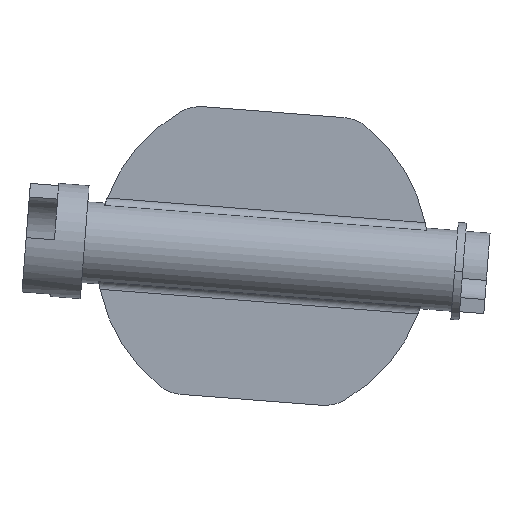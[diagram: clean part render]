
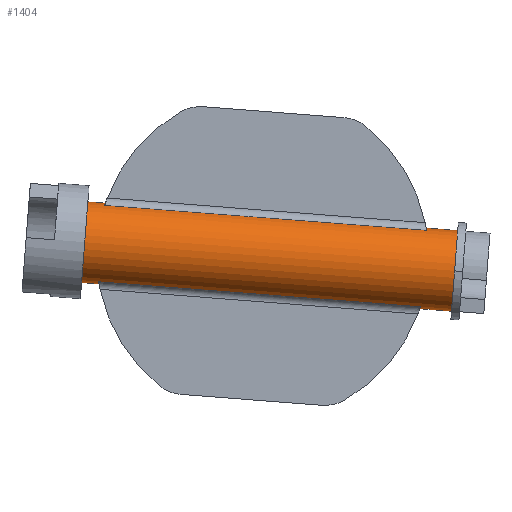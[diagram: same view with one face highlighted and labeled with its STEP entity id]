
A CAD part, front view. The second image highlights one B-rep face of the part: STEP entity #1404.
In plain terms, the highlighted cylindrical face has radius 5 mm (diameter 10 mm), a partial arc.
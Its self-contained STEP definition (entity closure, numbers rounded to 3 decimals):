
#61=CARTESIAN_POINT('',(639.067,0.,133.147));
#62=CARTESIAN_POINT('',(639.067,-0.189,133.147));
#63=CARTESIAN_POINT('',(639.063,-0.564,133.169));
#64=CARTESIAN_POINT('',(639.047,-1.123,133.266));
#65=CARTESIAN_POINT('',(639.03,-1.487,133.373));
#66=CARTESIAN_POINT('',(639.02,-1.667,133.438));
#87=CARTESIAN_POINT('',(639.067,0.,133.147));
#110=CARTESIAN_POINT('',(639.749,-1.667,142.838));
#111=CARTESIAN_POINT('',(639.768,-1.487,142.9));
#112=CARTESIAN_POINT('',(639.802,-1.123,143.003));
#113=CARTESIAN_POINT('',(639.833,-0.564,143.097));
#114=CARTESIAN_POINT('',(639.84,-0.189,143.117));
#115=CARTESIAN_POINT('',(639.84,0.,143.117));
#135=CARTESIAN_POINT('',(683.012,0.,134.755));
#136=DIRECTION('',(0.997,0.,-0.077));
#137=DIRECTION('',(0.077,0.,0.997));
#138=AXIS2_PLACEMENT_3D('',#135,#136,#137);
#140=DIRECTION('',(0.997,0.,-0.077));
#141=VECTOR('',#140,39.901);
#142=CARTESIAN_POINT('',(639.02,-1.667,133.438));
#143=LINE('',#142,#141);
#144=CARTESIAN_POINT('',(637.283,0.,138.301));
#145=DIRECTION('',(0.997,0.,-0.077));
#146=DIRECTION('',(0.077,0.,0.997));
#147=AXIS2_PLACEMENT_3D('',#144,#145,#146);
#149=DIRECTION('',(0.997,0.,-0.077));
#150=VECTOR('',#149,2.177);
#151=CARTESIAN_POINT('',(637.669,0.,143.286));
#152=LINE('',#151,#150);
#153=DIRECTION('',(-0.997,0.,0.077));
#154=VECTOR('',#153,39.901);
#155=CARTESIAN_POINT('',(679.53,-1.667,139.753));
#156=LINE('',#155,#154);
#157=DIRECTION('',(0.997,0.,-0.077));
#158=VECTOR('',#157,3.927);
#159=CARTESIAN_POINT('',(679.483,0.,140.043));
#160=LINE('',#159,#158);
#239=DIRECTION('',(0.997,0.,-0.077));
#240=VECTOR('',#239,2.177);
#241=CARTESIAN_POINT('',(636.896,0.,133.316));
#242=LINE('',#241,#240);
#247=DIRECTION('',(0.997,0.,-0.077));
#248=VECTOR('',#247,3.927);
#249=CARTESIAN_POINT('',(678.71,0.,130.073));
#250=LINE('',#249,#248);
#256=CARTESIAN_POINT('',(678.801,-1.667,130.353));
#257=CARTESIAN_POINT('',(678.782,-1.487,130.291));
#258=CARTESIAN_POINT('',(678.748,-1.123,130.187));
#259=CARTESIAN_POINT('',(678.717,-0.564,130.094));
#260=CARTESIAN_POINT('',(678.71,-0.189,130.073));
#261=CARTESIAN_POINT('',(678.71,0.,130.073));
#291=CARTESIAN_POINT('',(679.483,0.,140.043));
#292=CARTESIAN_POINT('',(679.483,-0.189,140.043));
#293=CARTESIAN_POINT('',(679.487,-0.564,140.022));
#294=CARTESIAN_POINT('',(679.503,-1.123,139.925));
#295=CARTESIAN_POINT('',(679.52,-1.487,139.817));
#296=CARTESIAN_POINT('',(679.53,-1.667,139.753));
#993=CARTESIAN_POINT('',(639.02,-1.667,133.438));
#994=CARTESIAN_POINT('',(678.801,-1.667,130.353));
#995=VERTEX_POINT('',#993);
#996=VERTEX_POINT('',#994);
#1009=CARTESIAN_POINT('',(679.53,-1.667,139.753));
#1010=CARTESIAN_POINT('',(639.749,-1.667,142.838));
#1011=VERTEX_POINT('',#1009);
#1012=VERTEX_POINT('',#1010);
#1029=CARTESIAN_POINT('',(636.896,0.,133.316));
#1030=CARTESIAN_POINT('',(637.669,0.,143.286));
#1031=VERTEX_POINT('',#1029);
#1032=VERTEX_POINT('',#1030);
#1045=CARTESIAN_POINT('',(682.625,0.,129.77));
#1046=CARTESIAN_POINT('',(683.399,0.,139.74));
#1047=VERTEX_POINT('',#1045);
#1048=VERTEX_POINT('',#1046);
#1053=CARTESIAN_POINT('',(678.71,0.,130.073));
#1054=VERTEX_POINT('',#1053);
#1055=CARTESIAN_POINT('',(679.483,0.,
140.043));
#1056=VERTEX_POINT('',#1055);
#1113=VERTEX_POINT('',#87);
#1114=VERTEX_POINT('',#115);
#1376=CARTESIAN_POINT('',(631.55,0.,138.745));
#1377=DIRECTION('',(0.997,0.,-0.077));
#1378=DIRECTION('',(-0.077,0.,-0.997));
#1379=AXIS2_PLACEMENT_3D('',#1376,#1377,#1378);
#1380=CYLINDRICAL_SURFACE('',#1379,5.);
#1382=ORIENTED_EDGE('',*,*,#1381,.T.);
#1384=ORIENTED_EDGE('',*,*,#1383,.F.);
#1386=ORIENTED_EDGE('',*,*,#1385,.F.);
#1387=ORIENTED_EDGE('',*,*,#1296,.F.);
#1388=ORIENTED_EDGE('',*,*,#1308,.F.);
#1390=ORIENTED_EDGE('',*,*,#1389,.F.);
#1392=ORIENTED_EDGE('',*,*,#1391,.F.);
#1394=ORIENTED_EDGE('',*,*,#1393,.T.);
#1395=ORIENTED_EDGE('',*,*,#1339,.F.);
#1397=ORIENTED_EDGE('',*,*,#1396,.F.);
#1399=ORIENTED_EDGE('',*,*,#1398,.F.);
#1401=ORIENTED_EDGE('',*,*,#1400,.T.);
#1402=EDGE_LOOP('',(#1382,#1384,#1386,#1387,#1388,#1390,#1392,#1394,#1395,#1397,
#1399,#1401));
#1403=FACE_OUTER_BOUND('',#1402,.F.);
#1404=ADVANCED_FACE('',(#1403),#1380,.T.);
#67=B_SPLINE_CURVE_WITH_KNOTS('',3,(#61,#62,#63,#64,#65,#66),.UNSPECIFIED.,.F.,
.F.,(4,1,1,4),(0.,0.333,0.667,1.),.UNSPECIFIED.);
#116=B_SPLINE_CURVE_WITH_KNOTS('',3,(#110,#111,#112,#113,#114,#115),
.UNSPECIFIED.,.F.,.F.,(4,1,1,4),(0.,0.333,0.667,1.),
.UNSPECIFIED.);
#139=CIRCLE('',#138,5.);
#148=CIRCLE('',#147,5.);
#262=B_SPLINE_CURVE_WITH_KNOTS('',3,(#256,#257,#258,#259,#260,#261),
.UNSPECIFIED.,.F.,.F.,(4,1,1,4),(0.,0.333,0.667,1.),
.UNSPECIFIED.);
#297=B_SPLINE_CURVE_WITH_KNOTS('',3,(#291,#292,#293,#294,#295,#296),
.UNSPECIFIED.,.F.,.F.,(4,1,1,4),(0.,0.333,0.667,1.),
.UNSPECIFIED.);
#1296=EDGE_CURVE('',#995,#996,#143,.T.);
#1308=EDGE_CURVE('',#1113,#995,#67,.T.);
#1339=EDGE_CURVE('',#1012,#1114,#116,.T.);
#1381=EDGE_CURVE('',#1048,#1047,#139,.T.);
#1383=EDGE_CURVE('',#1054,#1047,#250,.T.);
#1385=EDGE_CURVE('',#996,#1054,#262,.T.);
#1389=EDGE_CURVE('',#1031,#1113,#242,.T.);
#1391=EDGE_CURVE('',#1032,#1031,#148,.T.);
#1393=EDGE_CURVE('',#1032,#1114,#152,.T.);
#1396=EDGE_CURVE('',#1011,#1012,#156,.T.);
#1398=EDGE_CURVE('',#1056,#1011,#297,.T.);
#1400=EDGE_CURVE('',#1056,#1048,#160,.T.);
